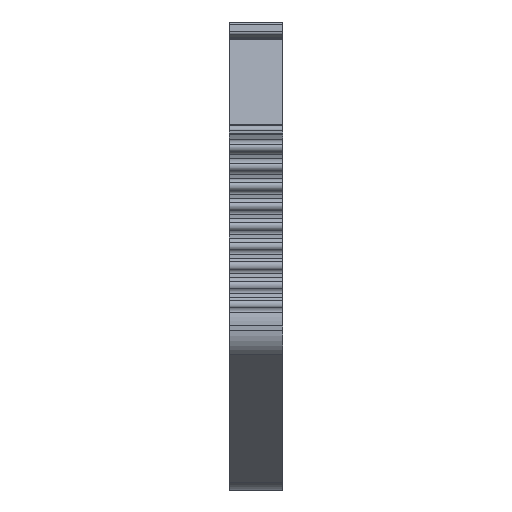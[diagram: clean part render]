
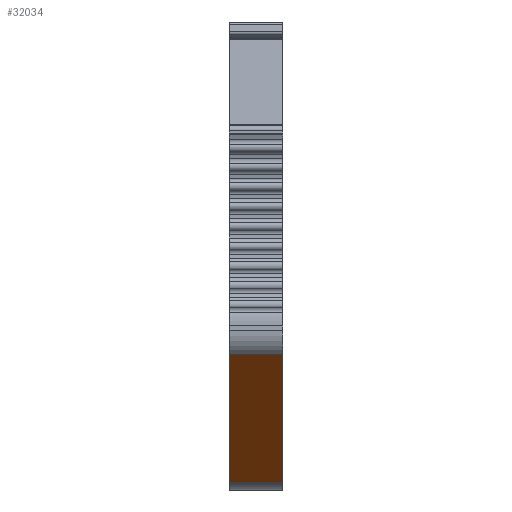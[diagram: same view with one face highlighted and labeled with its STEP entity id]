
A CAD part, left-side view. The second image highlights one B-rep face of the part: STEP entity #32034.
In plain terms, the highlighted planar face has unit normal (-0.646, 0, -0.763).
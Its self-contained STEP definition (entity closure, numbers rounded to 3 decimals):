
#621=DIRECTION('',(0.763,0.,-0.646));
#622=VECTOR('',#621,12.969);
#623=CARTESIAN_POINT('',(-61.117,0.,
-21.649));
#624=LINE('',#623,#622);
#2069=DIRECTION('',(-0.763,0.,0.646));
#2070=VECTOR('',#2069,12.969);
#2071=CARTESIAN_POINT('',(-51.217,-3.5,-30.027));
#2072=LINE('',#2071,#2070);
#9566=DIRECTION('',(0.,-1.,0.));
#9567=VECTOR('',#9566,3.5);
#9568=CARTESIAN_POINT('',(-51.217,0.,-30.027));
#9569=LINE('',#9568,#9567);
#9570=DIRECTION('',(0.,1.,0.));
#9571=VECTOR('',#9570,3.5);
#9572=CARTESIAN_POINT('',(-61.117,-3.5,-21.649));
#9573=LINE('',#9572,#9571);
#16233=CARTESIAN_POINT('',(-51.217,-3.5,-30.027));
#16234=VERTEX_POINT('',#16233);
#16235=CARTESIAN_POINT('',(-61.117,-3.5,-21.649));
#16236=VERTEX_POINT('',#16235);
#16791=CARTESIAN_POINT('',(-61.117,0.,
-21.649));
#16792=VERTEX_POINT('',#16791);
#16793=CARTESIAN_POINT('',(-51.217,0.,-30.027));
#16794=VERTEX_POINT('',#16793);
#32022=CARTESIAN_POINT('',(-61.365,-3.588,-21.44));
#32023=DIRECTION('',(0.646,0.,0.763));
#32024=DIRECTION('',(0.763,0.,-0.646));
#32025=AXIS2_PLACEMENT_3D('',#32022,#32023,#32024);
#32026=PLANE('',#32025);
#32027=ORIENTED_EDGE('',*,*,#20795,.F.);
#32028=ORIENTED_EDGE('',*,*,#32017,.F.);
#32029=ORIENTED_EDGE('',*,*,#19633,.F.);
#32031=ORIENTED_EDGE('',*,*,#32030,.F.);
#32032=EDGE_LOOP('',(#32027,#32028,#32029,#32031));
#32033=FACE_OUTER_BOUND('',#32032,.F.);
#32034=ADVANCED_FACE('',(#32033),#32026,.F.);
#19633=EDGE_CURVE('',#16792,#16794,#624,.T.);
#20795=EDGE_CURVE('',#16234,#16236,#2072,.T.);
#32017=EDGE_CURVE('',#16794,#16234,#9569,.T.);
#32030=EDGE_CURVE('',#16236,#16792,#9573,.T.);
